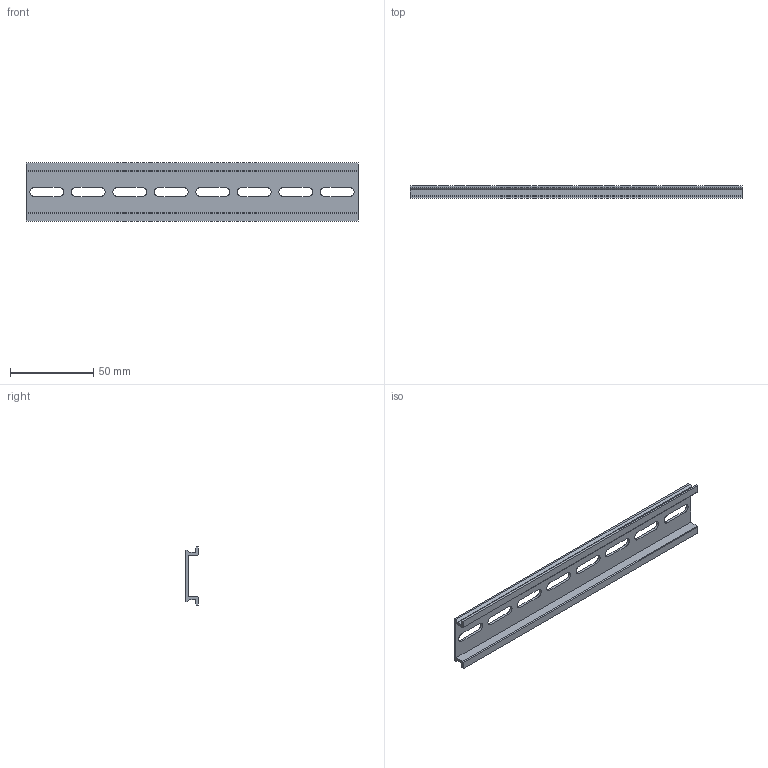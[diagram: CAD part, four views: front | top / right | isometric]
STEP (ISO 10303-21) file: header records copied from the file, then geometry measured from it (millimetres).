
FILE_DESCRIPTION( (''), '2;1');
FILE_NAME ('CVICAD02.15516.DIN-RAIL200_7344.stp','2020-09-01T14:18:08',(''),(''),'spGate 12.6.6','','');
FILE_SCHEMA (('AUTOMOTIVE_DESIGN'));
Length unit declared in the file: millimetre
Bounding box: 200 x 7.5 x 35 mm (x, y, z)
Volume: 14120 mm3; surface area: 18960.3 mm2
Topology: 1 solids, 1 shells, 52 faces, 150 edges, 100 vertices
Faces by surface type: plane 34, cylinder 18
Entity records: 2925 total; most frequent: CARTESIAN_POINT 302, ORIENTED_EDGE 300, DIRECTION 290, COLOUR_RGB 203, PRESENTATION_STYLE_ASSIGNMENT 203, STYLED_ITEM 203, EDGE_CURVE 150, DRAUGHTING_PRE_DEFINED_CURVE_FONT 150
